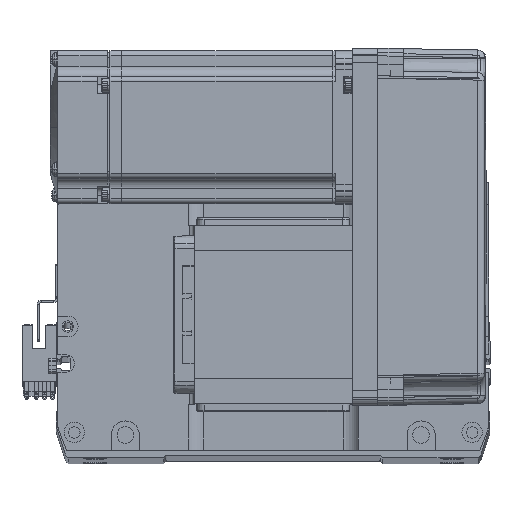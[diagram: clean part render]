
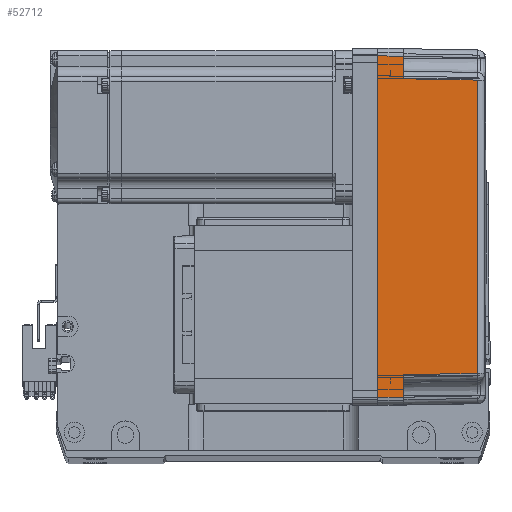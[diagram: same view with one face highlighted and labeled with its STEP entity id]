
A CAD part, top view. The second image highlights one B-rep face of the part: STEP entity #52712.
In plain terms, the highlighted planar face has unit normal (0.018, 0, 1) as drawn and (0, -1, 0.017) by its records, which use the part's own axes.
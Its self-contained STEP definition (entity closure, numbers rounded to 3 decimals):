
#40 = VECTOR ( 'NONE', #45351, 1000. ) ;
#612 = CARTESIAN_POINT ( 'NONE',  ( -67., -36., 0. ) ) ;
#1700 = B_SPLINE_CURVE_WITH_KNOTS ( 'NONE', 3,
 ( #60178, #59336, #49931, #9791 ),
 .UNSPECIFIED., .F., .F.,
 ( 4, 4 ),
 ( 0., 1. ),
 .UNSPECIFIED. ) ;
#2124 = CARTESIAN_POINT ( 'NONE',  ( 70., -36., 0. ) ) ;
#5714 = DIRECTION ( 'NONE',  ( -1., 0., 0. ) ) ;
#6582 = DIRECTION ( 'NONE',  ( -0.017, 0.017, 1. ) ) ;
#6697 = DIRECTION ( 'NONE',  ( 0., -0.017, -1. ) ) ;
#8605 = LINE ( 'NONE', #61003, #39045 ) ;
#9699 = VECTOR ( 'NONE', #13289, 1000. ) ;
#9791 = CARTESIAN_POINT ( 'NONE',  ( -57.495, -35.32, 38.985 ) ) ;
#10734 = EDGE_CURVE ( 'NONE', #14783, #30501, #1700, .T. ) ;
#10854 = CARTESIAN_POINT ( 'NONE',  ( 0., -36., 0. ) ) ;
#10906 = EDGE_CURVE ( 'NONE', #44921, #17989, #44879, .T. ) ;
#12194 = LINE ( 'NONE', #18138, #17651 ) ;
#12762 = EDGE_CURVE ( 'NONE', #30440, #18808, #59981, .T. ) ;
#13289 = DIRECTION ( 'NONE',  ( -1., 0., 0. ) ) ;
#14783 = VERTEX_POINT ( 'NONE', #30438 ) ;
#15280 = CARTESIAN_POINT ( 'NONE',  ( 70., -35.825, 10. ) ) ;
#15913 = CARTESIAN_POINT ( 'NONE',  ( -57.495, -35.32, 38.985 ) ) ;
#16563 = LINE ( 'NONE', #26625, #38438 ) ;
#17651 = VECTOR ( 'NONE', #42396, 1000. ) ;
#17989 = VERTEX_POINT ( 'NONE', #612 ) ;
#18138 = CARTESIAN_POINT ( 'NONE',  ( -57.495, -35.32, 38.985 ) ) ;
#18808 = VERTEX_POINT ( 'NONE', #26847 ) ;
#19179 = ORIENTED_EDGE ( 'NONE', *, *, #12762, .T. ) ;
#22257 = ORIENTED_EDGE ( 'NONE', *, *, #54397, .T. ) ;
#23747 = CARTESIAN_POINT ( 'NONE',  ( 70., -35.825, 10. ) ) ;
#23755 = CARTESIAN_POINT ( 'NONE',  ( 67., -36., 0. ) ) ;
#26106 = LINE ( 'NONE', #23747, #9699 ) ;
#26549 = DIRECTION ( 'NONE',  ( 0., -1., 0.017 ) ) ;
#26625 = CARTESIAN_POINT ( 'NONE',  ( 58., -35.825, 10. ) ) ;
#26847 = CARTESIAN_POINT ( 'NONE',  ( -66.826, -35.825, 10. ) ) ;
#29909 = CARTESIAN_POINT ( 'NONE',  ( 66.826, -35.825, 10. ) ) ;
#30157 = CARTESIAN_POINT ( 'NONE',  ( 67., -36., 0. ) ) ;
#30336 = VECTOR ( 'NONE', #5714, 1000. ) ;
#30438 = CARTESIAN_POINT ( 'NONE',  ( 57.495, -35.32, 38.985 ) ) ;
#30440 = VERTEX_POINT ( 'NONE', #34526 ) ;
#30501 = VERTEX_POINT ( 'NONE', #15913 ) ;
#31326 = EDGE_CURVE ( 'NONE', #17989, #18808, #8605, .T. ) ;
#33958 = EDGE_CURVE ( 'NONE', #30501, #30440, #12194, .T. ) ;
#34526 = CARTESIAN_POINT ( 'NONE',  ( -58., -35.825, 10. ) ) ;
#36579 = PLANE ( 'NONE',  #63013 ) ;
#37189 = VERTEX_POINT ( 'NONE', #29909 ) ;
#38438 = VECTOR ( 'NONE', #6582, 1000. ) ;
#39045 = VECTOR ( 'NONE', #50766, 1000. ) ;
#40864 = EDGE_LOOP ( 'NONE', ( #58898, #22257, #58392, #61178, #52757, #19179, #63970, #60810 ) ) ;
#42396 = DIRECTION ( 'NONE',  ( -0.017, -0.017, -1. ) ) ;
#44879 = LINE ( 'NONE', #10854, #62040 ) ;
#44921 = VERTEX_POINT ( 'NONE', #23755 ) ;
#45351 = DIRECTION ( 'NONE',  ( -0.017, 0.017, 1. ) ) ;
#49931 = CARTESIAN_POINT ( 'NONE',  ( -19.165, -35.316, 39.181 ) ) ;
#50576 = DIRECTION ( 'NONE',  ( -1., 0., 0. ) ) ;
#50766 = DIRECTION ( 'NONE',  ( 0.017, 0.017, 1. ) ) ;
#52712 = ADVANCED_FACE ( 'NONE', ( #62960 ), #36579, .T. ) ;
#52757 = ORIENTED_EDGE ( 'NONE', *, *, #33958, .T. ) ;
#53083 = LINE ( 'NONE', #30157, #40 ) ;
#54397 = EDGE_CURVE ( 'NONE', #37189, #54491, #26106, .T. ) ;
#54491 = VERTEX_POINT ( 'NONE', #64123 ) ;
#55071 = EDGE_CURVE ( 'NONE', #54491, #14783, #16563, .T. ) ;
#58392 = ORIENTED_EDGE ( 'NONE', *, *, #55071, .T. ) ;
#58898 = ORIENTED_EDGE ( 'NONE', *, *, #62707, .T. ) ;
#59336 = CARTESIAN_POINT ( 'NONE',  ( 19.165, -35.316, 39.181 ) ) ;
#59981 = LINE ( 'NONE', #15280, #30336 ) ;
#60178 = CARTESIAN_POINT ( 'NONE',  ( 57.495, -35.32, 38.985 ) ) ;
#60810 = ORIENTED_EDGE ( 'NONE', *, *, #10906, .F. ) ;
#61003 = CARTESIAN_POINT ( 'NONE',  ( -66.959, -35.958, 2.39 ) ) ;
#61178 = ORIENTED_EDGE ( 'NONE', *, *, #10734, .T. ) ;
#62040 = VECTOR ( 'NONE', #50576, 1000. ) ;
#62707 = EDGE_CURVE ( 'NONE', #44921, #37189, #53083, .T. ) ;
#62960 = FACE_OUTER_BOUND ( 'NONE', #40864, .T. ) ;
#63013 = AXIS2_PLACEMENT_3D ( 'NONE', #2124, #26549, #6697 ) ;
#63970 = ORIENTED_EDGE ( 'NONE', *, *, #31326, .F. ) ;
#64123 = CARTESIAN_POINT ( 'NONE',  ( 58., -35.825, 10. ) ) ;
